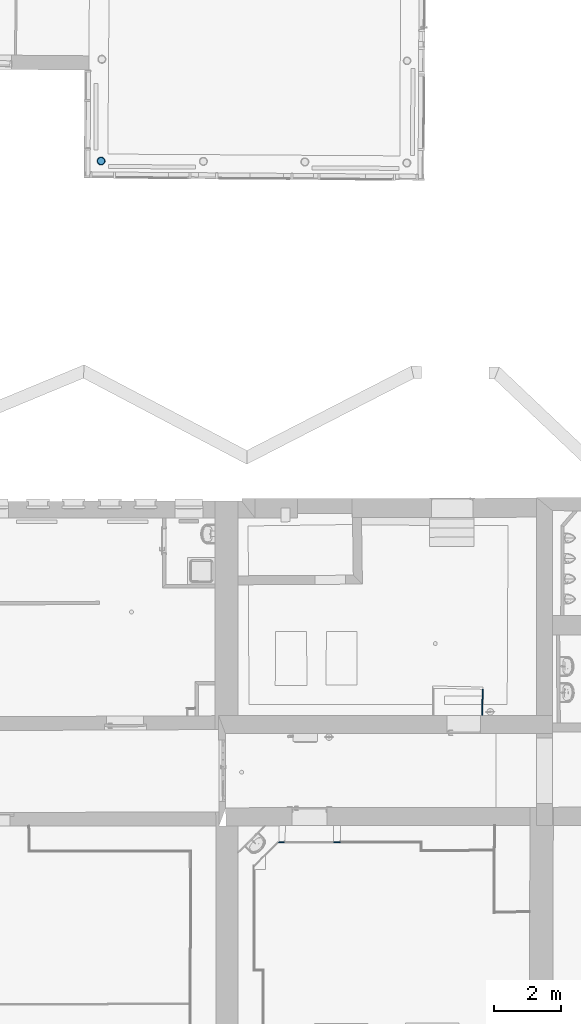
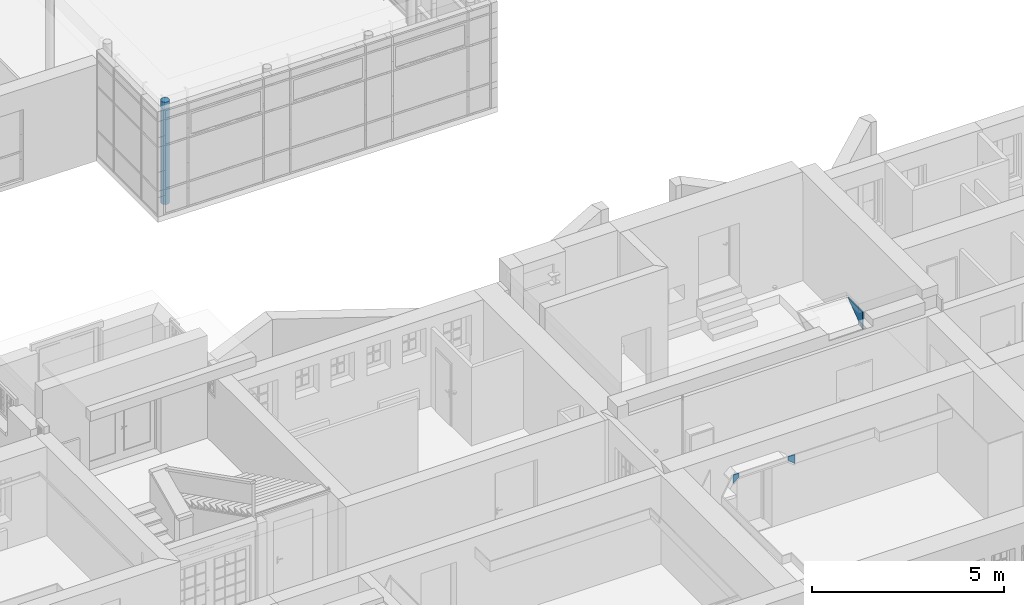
# One storey, part 62 of 196: 3 walls, 2 building element parts, 1 element without a shape of its own.
"""IFC2X3 building model written with IfcOpenShell, lengths in metres."""

from ifc_helpers import new_model, entity, si_unit, converted_unit, derived_unit, money_unit, direction, frame, origin_with_axes, origin_2d_with_axis, place, context, subcontext, project, spatial, polyline, circle, hollow_circle, outline, extrude, boolean, faceted_brep, material, type_object, element, aggregate, save


model = new_model("IFC2X3")

# Units and contexts
model_context = context("Model", 3, precision=1e-05, world=origin_with_axes(), true_north=direction((0.0, 1.0)))
body_context = subcontext(model_context, "Body", "Model", "MODEL_VIEW")
ifc_project = project(units=[si_unit("LENGTHUNIT", "METRE"), si_unit("AREAUNIT", "SQUARE_METRE"), si_unit("VOLUMEUNIT", "CUBIC_METRE"), converted_unit("PLANEANGLEUNIT", "DEGREE", entity("IfcPlaneAngleMeasure", 0.0174532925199), si_unit("PLANEANGLEUNIT", "RADIAN"), dimensions=[0, 0, 0, 0, 0, 0, 0]), money_unit("EUR"), converted_unit("TIMEUNIT", "Year", entity("IfcTimeMeasure", 31556926.0), si_unit("TIMEUNIT", "SECOND"), dimensions=[0, 0, 1, 0, 0, 0, 0]), si_unit("MASSUNIT", "GRAM", prefix="KILO"), si_unit("THERMODYNAMICTEMPERATUREUNIT", "DEGREE_CELSIUS"), si_unit("LUMINOUSINTENSITYUNIT", "LUMEN"), si_unit("ENERGYUNIT", "JOULE", prefix="MEGA"), derived_unit("THERMALCONDUCTANCEUNIT", [(si_unit("POWERUNIT", "WATT"), 1), (si_unit("LENGTHUNIT", "METRE"), -1), (si_unit("THERMODYNAMICTEMPERATUREUNIT", "KELVIN"), -1)]), derived_unit("SPECIFICHEATCAPACITYUNIT", [(si_unit("ENERGYUNIT", "JOULE"), 1), (si_unit("MASSUNIT", "GRAM", prefix="KILO"), -1), (si_unit("THERMODYNAMICTEMPERATUREUNIT", "KELVIN"), -1)]), derived_unit("MASSDENSITYUNIT", [(si_unit("MASSUNIT", "GRAM", prefix="KILO"), 1), (si_unit("VOLUMEUNIT", "CUBIC_METRE"), -1)])], contexts=[model_context])

# Site, building, storey
site_placement = place(None, origin_with_axes())
site = spatial("IfcSite", under=ifc_project, at=site_placement, Name="Gelände", CompositionType="ELEMENT")
building_placement = place(site_placement, origin_with_axes())
building = spatial("IfcBuilding", under=site, at=building_placement, Name="Gebäude", CompositionType="ELEMENT")
storey_placement = place(building_placement, frame((0.0, 0.0, -3.0), z_axis=(0.0, 0.0, 1.0), x_axis=(1.0, 0.0, 0.0)))
storey = spatial("IfcBuildingStorey", under=building, at=storey_placement, Name="KELLERGESCHOSS", CompositionType="ELEMENT", Elevation=-3.0)

# Walls
ifc_material_1 = material(Name="43_Gipskarton")
wall_type = type_object("IfcWallType", Name="43_Gipskarton 30", PredefinedType="ELEMENTEDWALL")
wall_1_placement = place(storey_placement, frame((6.6794577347, 15.8933814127, 2.10545783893), z_axis=(0.0, 0.0, 1.0), x_axis=(-0.999998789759, -0.00155578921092, 0.0)))
element("IfcWall", 1, at=wall_1_placement, inside=storey, type_object=wall_type, material=ifc_material_1, Name="Wand-067", ObjectType="ELEMENTEDWALL", context=body_context, shape_type="CSG", body=[
    boolean("DIFFERENCE", extrude(outline(polyline([(0.0, -0.03), (0.199369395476, -0.03), (0.199369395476, 0.0), (0.0, 0.0), (0.0, -0.03)])), origin_with_axes(), (0.0, 0.0, 1.0), 0.334542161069), faceted_brep([(0.0, -0.03, 0.0519561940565), (6.86207899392e-08, 0.0, 0.0520207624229), (0.0, 0.0, 0.0), (0.0, -0.03, 0.0), (0.199369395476, 0.0, 0.214216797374), (0.199369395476, -0.03, 0.21415214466), (0.199369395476, 0.0, 0.0), (0.199369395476, -0.03, 0.0)], [[[0, 1, 2, 3]], [[4, 1, 0, 5]], [[1, 4, 6, 2]], [[7, 3, 2, 6]], [[5, 0, 3, 7]], [[4, 5, 7, 6]]])),
])
wall_2_placement = place(storey_placement, frame((4.99762960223, 15.8907648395, 2.13), z_axis=(0.0, 0.0, 1.0), x_axis=(-0.999998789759, -0.00155578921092, 0.0)))
element("IfcWall", 2, at=wall_2_placement, inside=storey, type_object=wall_type, material=ifc_material_1, Name="Wand-067", ObjectType="ELEMENTEDWALL", context=body_context, shape_type="CSG", body=[
    boolean("DIFFERENCE", extrude(outline(polyline([(0.0, -0.03), (0.221863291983, -0.03), (0.221863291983, 0.0), (0.0, 0.0), (0.0, -0.03)])), origin_with_axes(), (0.0, 0.0, 1.0), 0.31), faceted_brep([(0.0, -0.03, 0.187681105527), (0.0, 0.0, 0.188071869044), (0.0, 0.0, 0.0), (0.0, -0.03, 0.0), (0.155399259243, 0.0, 0.053000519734), (0.148624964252, -0.03, 0.0584978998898), (0.155044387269, -0.0236806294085, 0.053000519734), (0.179099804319, 0.0, 0.05), (0.179099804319, 0.0, 0.31), (0.221863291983, 0.0, 0.31), (0.221863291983, 0.0, 0.0), (0.155399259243, 0.0, 0.05), (0.221863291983, -0.03, 0.0), (0.221863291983, -0.03, 0.31), (0.148624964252, -0.03, 0.31), (0.155044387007, -0.0236806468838, 0.05)], [[[0, 1, 2, 3]], [[4, 1, 0, 5, 6]], [[7, 8, 9, 10, 2, 1, 4, 11]], [[12, 3, 2, 10]], [[5, 0, 3, 12, 13, 14]], [[5, 14, 8, 7, 15, 6]], [[11, 4, 6, 15]], [[8, 14, 13, 9]], [[13, 12, 10, 9]], [[7, 11, 15]]])),
])
wall_3_placement = place(storey_placement, frame((10.9345364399, 19.1638258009, 2.57478593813), z_axis=(0.0, 0.0, 1.0), x_axis=(0.0101427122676, 0.999948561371, 0.0)))
element("IfcWall", 3, at=wall_3_placement, inside=storey, type_object=wall_type, material=ifc_material_1, Name="Wand-068", ObjectType="ELEMENTEDWALL", context=body_context, shape_type="CSG", body=[
    boolean("DIFFERENCE", extrude(outline(polyline([(-0.000322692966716, 0.0), (1.32039944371, 0.0), (1.32039944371, 0.03), (-0.000322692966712, 0.03), (-0.000322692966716, 0.0)])), origin_with_axes(), (0.0, 0.0, 1.0), 0.605214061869), faceted_brep([(1.32039944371, 0.03, 0.604979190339), (1.32039944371, 0.0, 0.605214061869), (1.32039944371, 0.0, 0.0), (1.32039944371, 0.03, 0.0), (0.53787431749, 0.0, 0.0490739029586), (0.537551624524, 0.03, 0.0486096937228), (0.53787431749, 0.0, 0.605214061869), (-0.000322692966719, 0.0, 0.605214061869), (-0.000322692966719, 0.0, 0.0), (-0.000322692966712, 0.03, 0.0), (-0.000322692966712, 0.03, 0.605214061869), (0.537551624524, 0.03, 0.605214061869)], [[[0, 1, 2, 3]], [[4, 1, 0, 5]], [[4, 6, 7, 8, 2, 1]], [[2, 8, 9, 3]], [[5, 0, 3, 9, 10, 11]], [[11, 6, 4, 5]], [[6, 11, 10, 7]], [[10, 9, 8, 7]]])),
])

# Column, building element parts
column_type = type_object("IfcColumnType", Name="56_Metall, Stahl verzinkt D235", PredefinedType="COLUMN")
column_placement = place(storey_placement, frame((-0.480385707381, 36.2881240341, 0.609445), z_axis=(0.0, 0.0, 1.0), x_axis=(1.0, 0.0, 0.0)))
column = element("IfcColumn", 4, at=column_placement, inside=storey, type_object=column_type, Name="Stütze-008", ObjectType="COLUMN")
ifc_material_2 = material(Name="56_Metall, Stahl verzinkt")
building_element_part_1_placement = place(column_placement, origin_with_axes())
building_element_part_1 = element("IfcBuildingElementPart", 5, at=building_element_part_1_placement, material=ifc_material_2, Name="56_Metall, Stahl verzinkt", context=body_context, shape_type="SweptSolid", body=[
    extrude(hollow_circle(Radius=0.11737191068, WallThickness=0.005, at=origin_2d_with_axis()), frame((0.0, 0.0, 0.0), z_axis=(0.0, 0.0, 1.0), x_axis=(0.0198104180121, -0.999803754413, 0.0)), (0.0, 0.0, 1.0), 3.250555),
])
building_element_part_2_placement = place(column_placement, origin_with_axes())
building_element_part_2 = element("IfcBuildingElementPart", 6, at=building_element_part_2_placement, material=ifc_material_2, Name="56_Metall, Stahl verzinkt", context=body_context, shape_type="SweptSolid", body=[
    extrude(circle(Radius=0.11237191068, at=origin_2d_with_axis()), frame((0.0, 0.0, 0.0), z_axis=(0.0, 0.0, 1.0), x_axis=(0.0198104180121, -0.999803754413, 0.0)), (0.0, 0.0, 1.0), 3.250555),
])
aggregate(column, [building_element_part_1, building_element_part_2])

save(model, "model.ifc")
